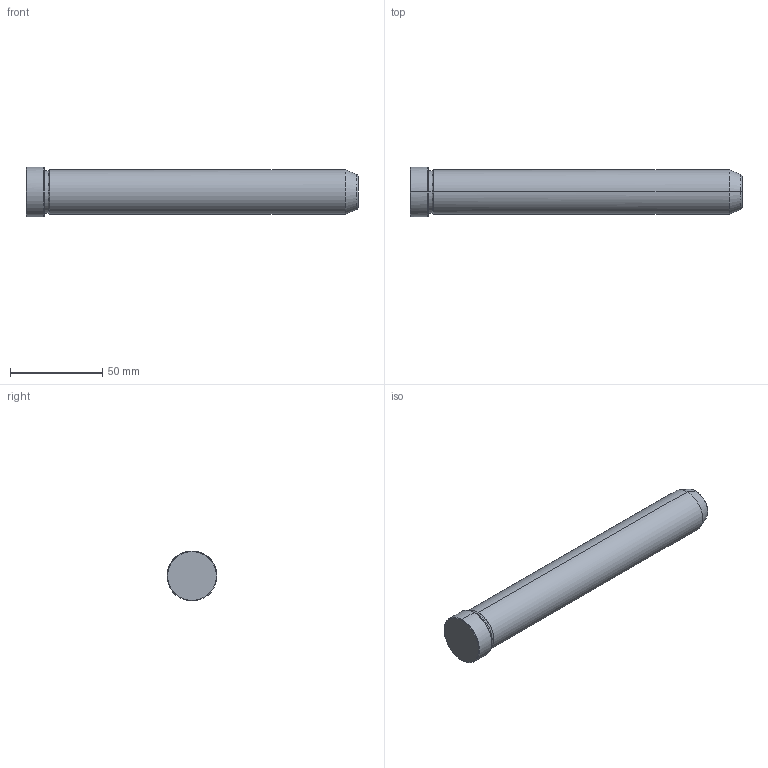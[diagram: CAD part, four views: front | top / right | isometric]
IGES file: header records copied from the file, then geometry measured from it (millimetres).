
Start section: START RECORD GO HERE.
Global section: file name: 549-24X180.igs; native system: DASSAULT SYSTEMES CATIA V5 R20 - www.3ds.com; preprocessor: CATIA Version 5 Release 20 ; author: Utente; organization: NB04-ASUS; date: 20211217.150255; units: millimetre
Bounding box: 180 x 27 x 27 mm (x, y, z)
Surface area: 14596.9 mm2 (no closed solid volume)
Topology: 0 solids, 0 shells, 19 faces, 112 edges, 112 vertices
Faces by surface type: revolution 16, plane 3
